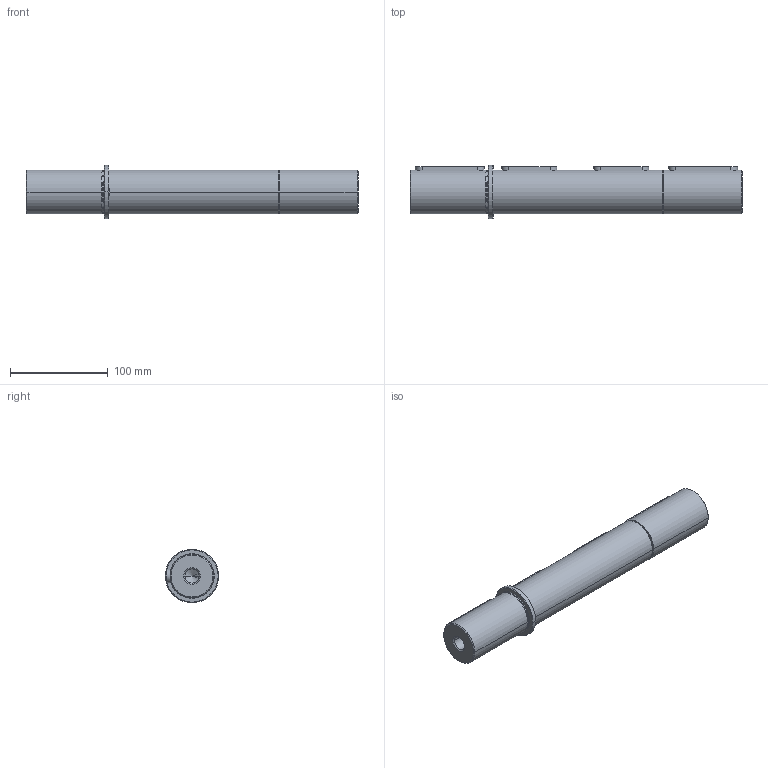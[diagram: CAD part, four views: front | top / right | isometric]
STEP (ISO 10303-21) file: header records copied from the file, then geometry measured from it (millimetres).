
FILE_DESCRIPTION((''),'2;1');
FILE_NAME('DOSB130','2013-09-10T',('tecnicocad'),(''),'PRO/ENGINEER BY PARAMETRIC TECHNOLOGY CORPORATION, 2011490','PRO/ENGINEER BY PARAMETRIC TECHNOLOGY CORPORATION, 2011490','');
FILE_SCHEMA(('CONFIG_CONTROL_DESIGN'));
Length unit declared in the file: millimetre
Products named in the file (1): DOSB130
Bounding box: 340 x 54.5 x 54.5 mm (x, y, z)
Volume: 542225 mm3; surface area: 59312.2 mm2
Topology: 1 solids, 1 shells, 62 faces, 154 edges, 96 vertices
Faces by surface type: cylinder 24, plane 18, cone 18, torus 2
Entity records: 1949 total; most frequent: CARTESIAN_POINT 429, DIRECTION 322, ORIENTED_EDGE 300, EDGE_CURVE 150, AXIS2_PLACEMENT_3D 126, VERTEX_POINT 96, VECTOR 70, LINE 70
